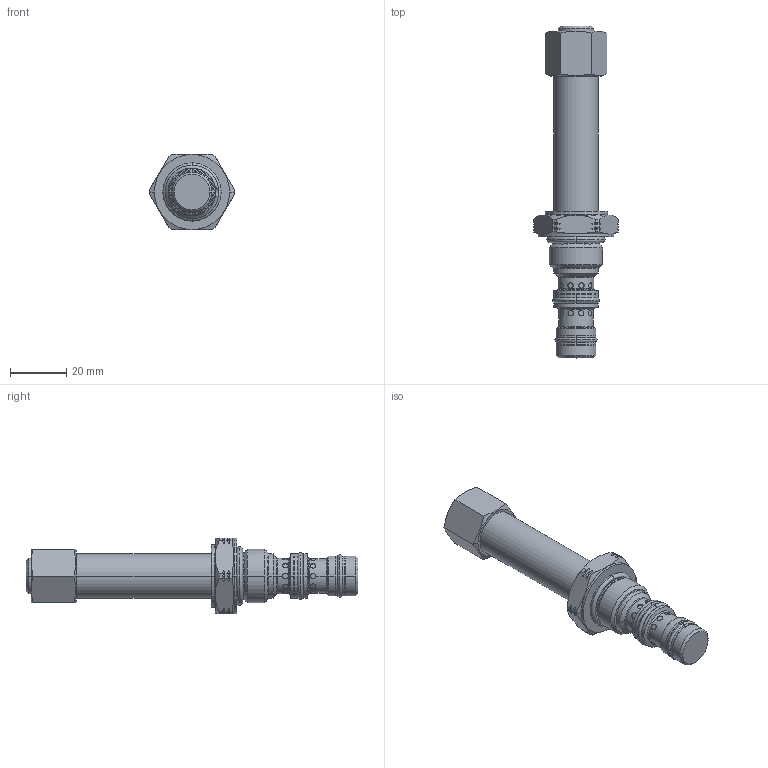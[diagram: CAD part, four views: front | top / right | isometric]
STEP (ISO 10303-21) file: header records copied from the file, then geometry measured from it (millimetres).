
FILE_DESCRIPTION((''),'2;1');
FILE_NAME('HTS38-36X-X-X-XXXX_SW0001','2021-01-14T08:08:27',('BH1'),(''),'CREO PARAMETRIC BY PTC INC, 2018020','CREO PARAMETRIC BY PTC INC, 2018020','');
FILE_SCHEMA(('CONFIG_CONTROL_DESIGN'));
Length unit declared in the file: inch
Products named in the file (1): HTS38-36X-X-X-XXXX_SW0001
Bounding box: 30.23 x 118.24 x 26.92 mm (x, y, z)
Volume: 27707.8 mm3; surface area: 10481.1 mm2
Topology: 1 solids, 1 shells, 298 faces, 688 edges, 426 vertices
Faces by surface type: cylinder 132, cone 73, torus 38, plane 31, revolution 24
Entity records: 11018 total; most frequent: CARTESIAN_POINT 4439, ORIENTED_EDGE 1370, DIRECTION 1319, EDGE_CURVE 685, AXIS2_PLACEMENT_3D 553, VERTEX_POINT 420, EDGE_LOOP 329, FACE_OUTER_BOUND 298
